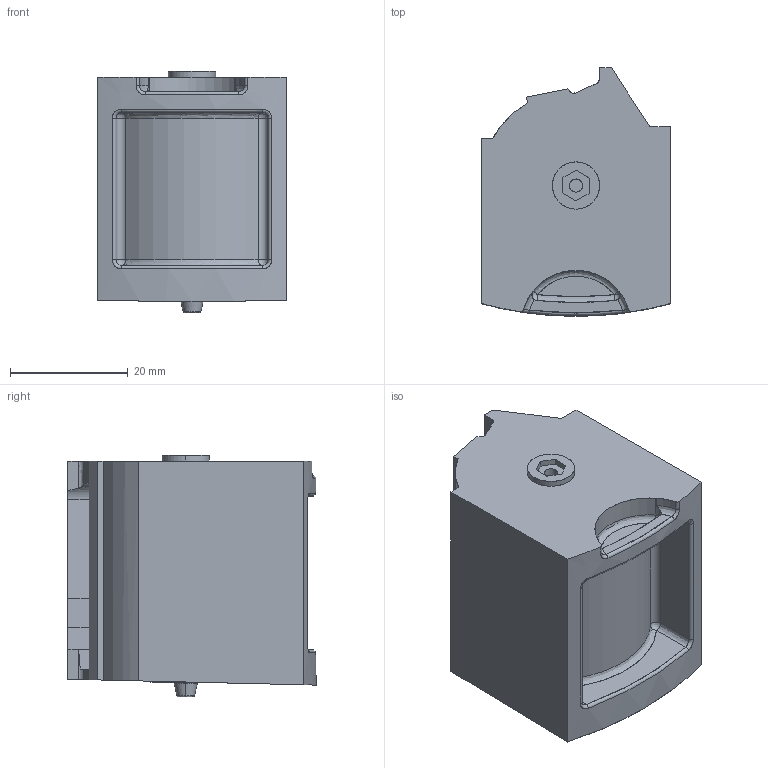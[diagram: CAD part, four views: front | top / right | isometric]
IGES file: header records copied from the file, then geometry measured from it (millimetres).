
Start section: SolidWorks IGES file using analytic representation for surfaces
Global section: file name: C:\Users\owner\Desktop\Ruger 10-22 10 round magazine.IGS; native system: SolidWorks 2008; preprocessor: SolidWorks 2008; author: owner; date: 111007.112244; units: millimetre
Bounding box: 32 x 42.13 x 41 mm (x, y, z)
Surface area: 12324.9 mm2 (no closed solid volume)
Topology: 0 solids, 0 shells, 131 faces, 1269 edges, 1262 vertices
Faces by surface type: bspline 87, revolution 44
